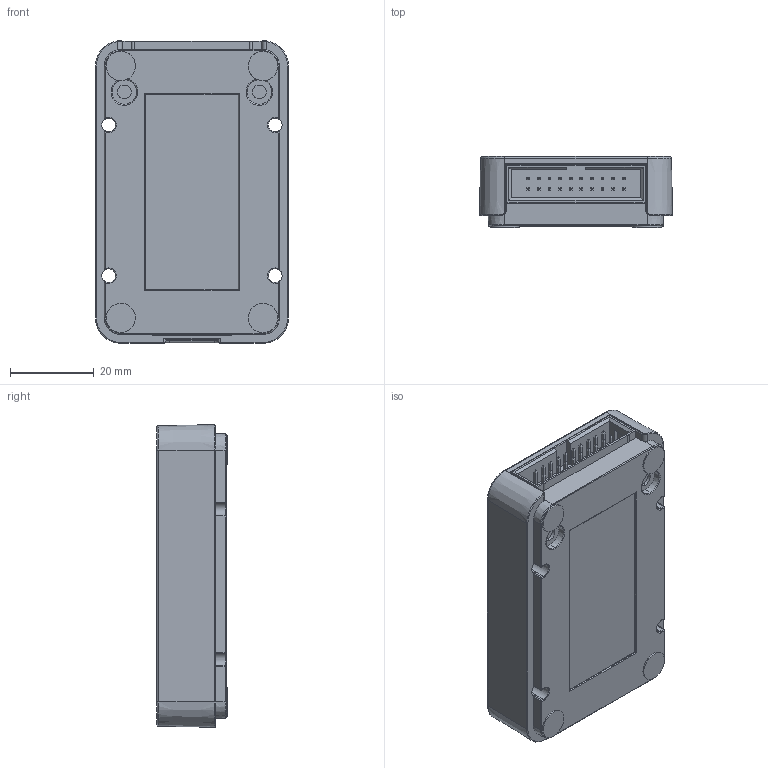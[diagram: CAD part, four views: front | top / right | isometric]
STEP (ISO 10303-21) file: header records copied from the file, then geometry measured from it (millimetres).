
FILE_DESCRIPTION (( 'STEP AP214' ), '1' );
FILE_NAME ('FlasherCompact_Assembly_V1.0_WEB.STEP', '2026-02-19T07:16:03', ( '' ), ( '' ), 'SwSTEP 2.0', 'SolidWorks 2020', '' );
FILE_SCHEMA (( 'AUTOMOTIVE_DESIGN' ));
Length unit declared in the file: millimetre
Products named in the file (1): FlasherCompact_Assembly_V1.0_WEB
Bounding box: 46.1 x 16.86 x 72.3 mm (x, y, z)
Surface area: 24689.1 mm2 (no closed solid volume)
Topology: 0 solids, 609 shells, 7961 faces, 19561 edges, 12658 vertices
Faces by surface type: plane 6128, cylinder 1551, sphere 130, bspline 57, torus 49, cone 46
Entity records: 331162 total; most frequent: CARTESIAN_POINT 57285, ORIENTED_EDGE 38662, DIRECTION 33561, EDGE_CURVE 19551, VERTEX_POINT 12658, VECTOR 12613, LINE 12613, AXIS2_PLACEMENT_3D 10474
